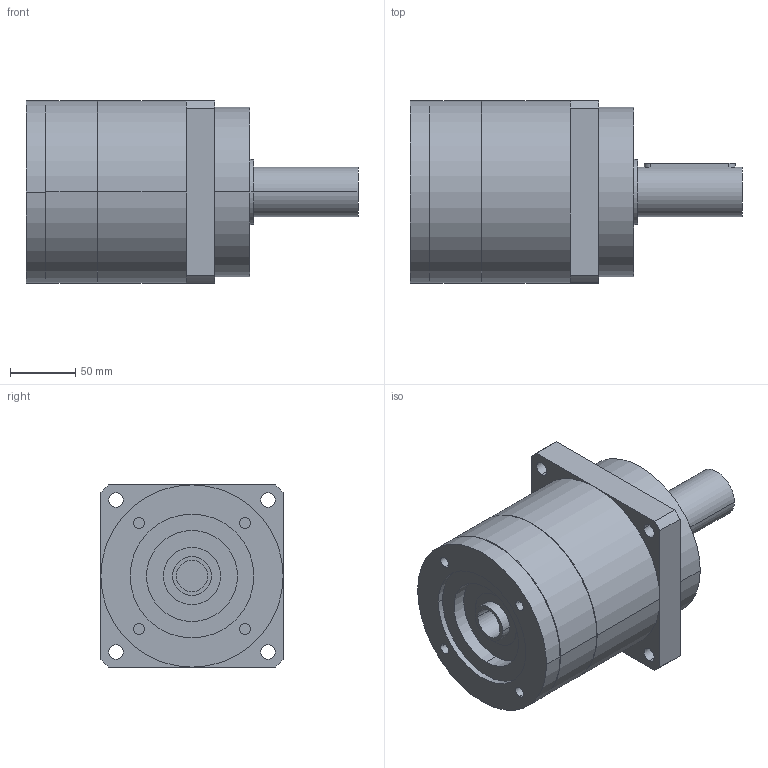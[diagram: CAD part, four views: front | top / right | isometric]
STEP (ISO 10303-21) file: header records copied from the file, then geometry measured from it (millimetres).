
FILE_DESCRIPTION(('CoCreate Modeling STEP Export'),'2;1');
FILE_NAME('GPR150_ig-3-4-5-7_38_B5_24_P03.stp','2014-08-19T16:42:22',(''),(''),'CoCreate Modeling STEP processor for AP214 (Solid Model)','CoCreate Modeling 16.00C 25-Feb-2009 (C) Parametric Technology GmbH','');
FILE_SCHEMA(('AUTOMOTIVE_DESIGN { 1 0 10303 214 1 1 1 1 }'));
Length unit declared in the file: millimetre
Products named in the file (2): GPR150_ig-3-4-5-7_38_B5_24_P03
Assembly tree (1 placements, depth 2):
  GPR150_ig-3-4-5-7_38_B5_24_P03
    GPR150_ig-3-4-5-7_38_B5_24_P03
Bounding box: 255 x 140 x 140 mm (x, y, z)
Volume: 2673352 mm3; surface area: 141123.1 mm2
Topology: 1 solids, 1 shells, 91 faces, 230 edges, 158 vertices
Faces by surface type: cylinder 54, plane 31, cone 6
Entity records: 2392 total; most frequent: ORIENTED_EDGE 456, CARTESIAN_POINT 436, DIRECTION 330, EDGE_CURVE 228, VERTEX_POINT 158, AXIS2_PLACEMENT_3D 124, EDGE_LOOP 118, FACE_OUTER_BOUND 91
